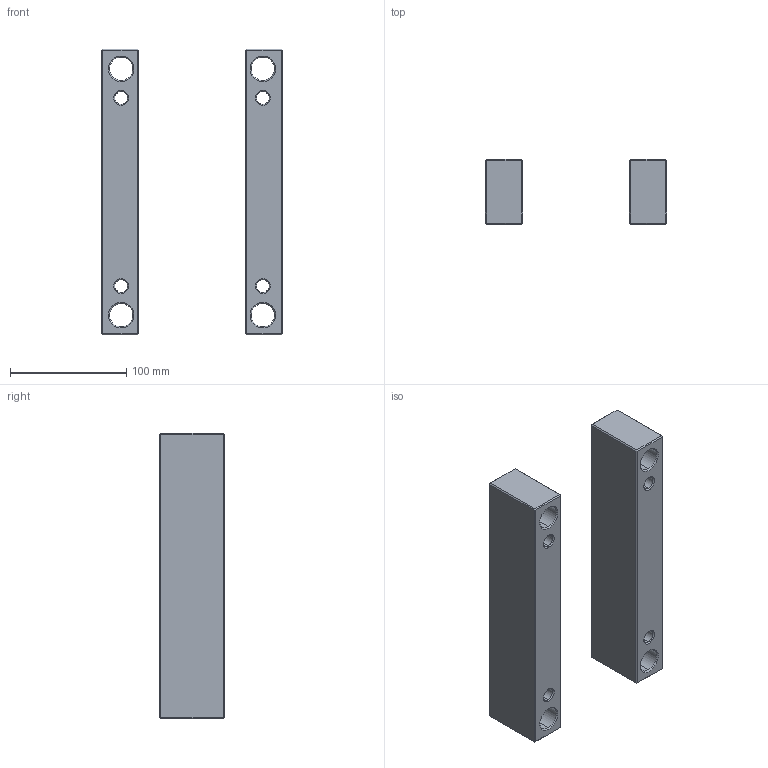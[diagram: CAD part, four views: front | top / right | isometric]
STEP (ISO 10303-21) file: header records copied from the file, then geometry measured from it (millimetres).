
FILE_DESCRIPTION (( 'STEP AP214' ), '1' );
FILE_NAME ('ESP-EU-156X246x56.STEP', '2020-04-15T16:42:57', ( 'August' ), ( '' ), 'SwSTEP 2.0', 'SolidWorks 2018', '' );
FILE_SCHEMA (( 'AUTOMOTIVE_DESIGN' ));
Length unit declared in the file: millimetre
Products named in the file (1): ESP-EU-156X246x56
Bounding box: 156 x 56 x 246 mm (x, y, z)
Volume: 788273.2 mm3; surface area: 110294.9 mm2
Topology: 2 solids, 2 shells, 100 faces, 208 edges, 112 vertices
Faces by surface type: plane 52, cone 32, cylinder 16
Entity records: 2631 total; most frequent: DIRECTION 474, CARTESIAN_POINT 421, ORIENTED_EDGE 416, EDGE_CURVE 208, AXIS2_PLACEMENT_3D 165, VECTOR 144, LINE 144, EDGE_LOOP 116
